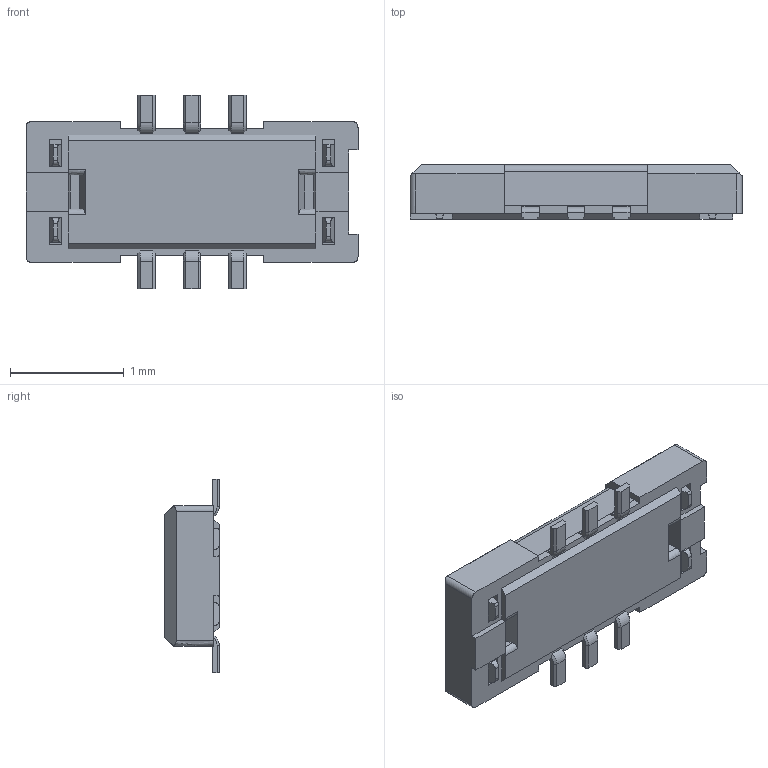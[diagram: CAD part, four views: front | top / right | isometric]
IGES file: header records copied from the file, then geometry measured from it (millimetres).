
Start section: SolidWorks IGES file using analytic representation for surfaces
Global section: file name: \\192.168.40.241\技術部共有\個人用\99 個人フォルダ\kurokawa(黒川)\20180731\NOVA4\20641 3D data.IGS; native system: SolidWorks 2017; preprocessor: SolidWorks 2017; author: ipxcad-010; date: 180731.173935; units: millimetre
Bounding box: 2.92 x 0.48 x 1.7 mm (x, y, z)
Surface area: 13.4 mm2 (no closed solid volume)
Topology: 0 solids, 0 shells, 215 faces, 1296 edges, 1296 vertices
Faces by surface type: bspline 167, revolution 48
